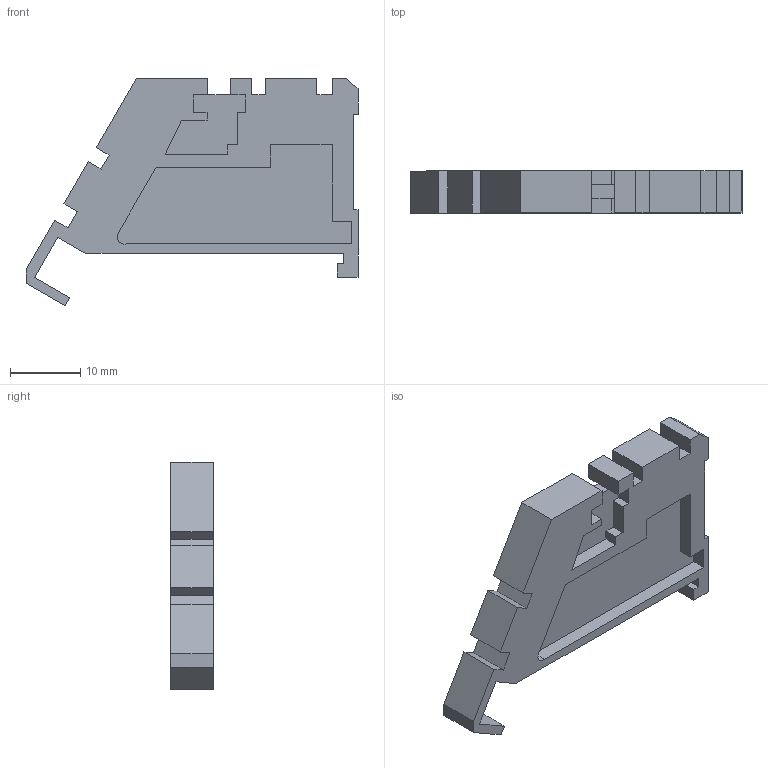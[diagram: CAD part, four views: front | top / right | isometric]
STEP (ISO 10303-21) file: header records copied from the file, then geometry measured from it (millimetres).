
FILE_DESCRIPTION(/* description */ (''),/* implementation_level */ '2;1');
FILE_NAME(/* name */ 'SQ0804~1',/* time_stamp */ '2024-08-26T11:32:45+03:00',/* author */ (''),/* organization */ (''),/* preprocessor_version */ 'ST-DEVELOPER v16.5',/* originating_system */ '',/* authorisation */ '');
FILE_SCHEMA (('CONFIG_CONTROL_DESIGN'));
Length unit declared in the file: millimetre
Products named in the file (1): Document
Bounding box: 47.23 x 6 x 32.42 mm (x, y, z)
Volume: 4026.8 mm3; surface area: 3504.5 mm2
Topology: 1 solids, 1 shells, 89 faces, 251 edges, 166 vertices
Faces by surface type: plane 87, cylinder 2
Entity records: 2567 total; most frequent: CARTESIAN_POINT 771, ORIENTED_EDGE 502, EDGE_CURVE 251, B_SPLINE_CURVE_WITH_KNOTS 247, VERTEX_POINT 166, DIRECTION 93, EDGE_LOOP 91, AXIS2_PLACEMENT_3D 91
